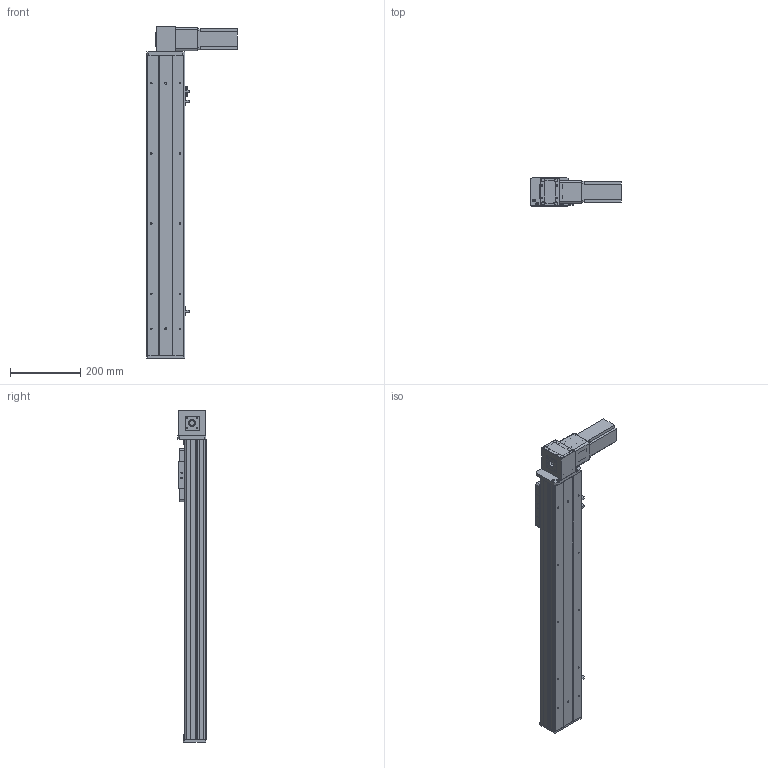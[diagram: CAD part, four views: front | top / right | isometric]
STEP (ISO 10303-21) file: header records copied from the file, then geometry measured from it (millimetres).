
FILE_DESCRIPTION (( 'STEP AP203' ), '1' );
FILE_NAME ('Y10CB-D90-S600-BD-P400W.STEP', '2020-02-17T02:26:29', ( '微软用户' ), ( '微软中国' ), 'SwSTEP 2.0', 'SolidWorks 2017', '' );
FILE_SCHEMA (( 'CONFIG_CONTROL_DESIGN' ));
Length unit declared in the file: millimetre
Products named in the file (16): 10CB-詩湍-; Y10CB-D90-S600-BD-P400W; Y10CB- 掛极耜裔啣-毀---; Y10C---詩湍揤啣; 0CB-雄赽釱---; 10CB9-掛极; 0Cb-俋欶---; 10CB-耜裔; Y10B-々湍喘謫眊楊擘啣--; Y135C-陔俋离換覜結え-; san松下电机400不带刹车----; Y100-135俋离換覜ん--; 0B-源倛裔啣; Y10B--々湍喘謫眊--666; 0B-埴倛裔啣; 0B-薊粣ん眊
Assembly tree (19 placements, depth 2):
  Y10CB-D90-S600-BD-P400W
    0CB-雄赽釱---
    0Cb-俋欶---
    Y10B-々湍喘謫眊楊擘啣--
    san松下电机400不带刹车----
    0B-源倛裔啣
    0B-埴倛裔啣
    10CB-詩湍-
    Y10CB- 掛极耜裔啣-毀---  x2
    Y10C---詩湍揤啣  x2
    10CB9-掛极
    10CB-耜裔
    Y135C-陔俋离換覜結え-
    Y100-135俋离換覜ん--  x3
    Y10B--々湍喘謫眊--666
    0B-薊粣ん眊
Bounding box: 258 x 80.5 x 946 mm (x, y, z)
Volume: 2438220.8 mm3; surface area: 1015696 mm2
Topology: 19 solids, 19 shells, 876 faces, 2302 edges, 1508 vertices
Faces by surface type: plane 432, cylinder 420, cone 24
Entity records: 26569 total; most frequent: CARTESIAN_POINT 4608, DIRECTION 4321, ORIENTED_EDGE 4074, EDGE_CURVE 2037, AXIS2_PLACEMENT_3D 1551, VERTEX_POINT 1334, VECTOR 1219, LINE 1219
